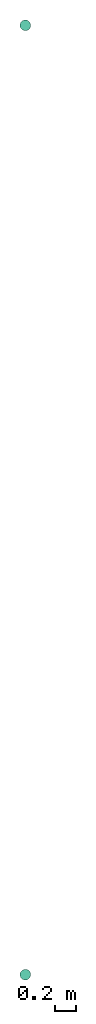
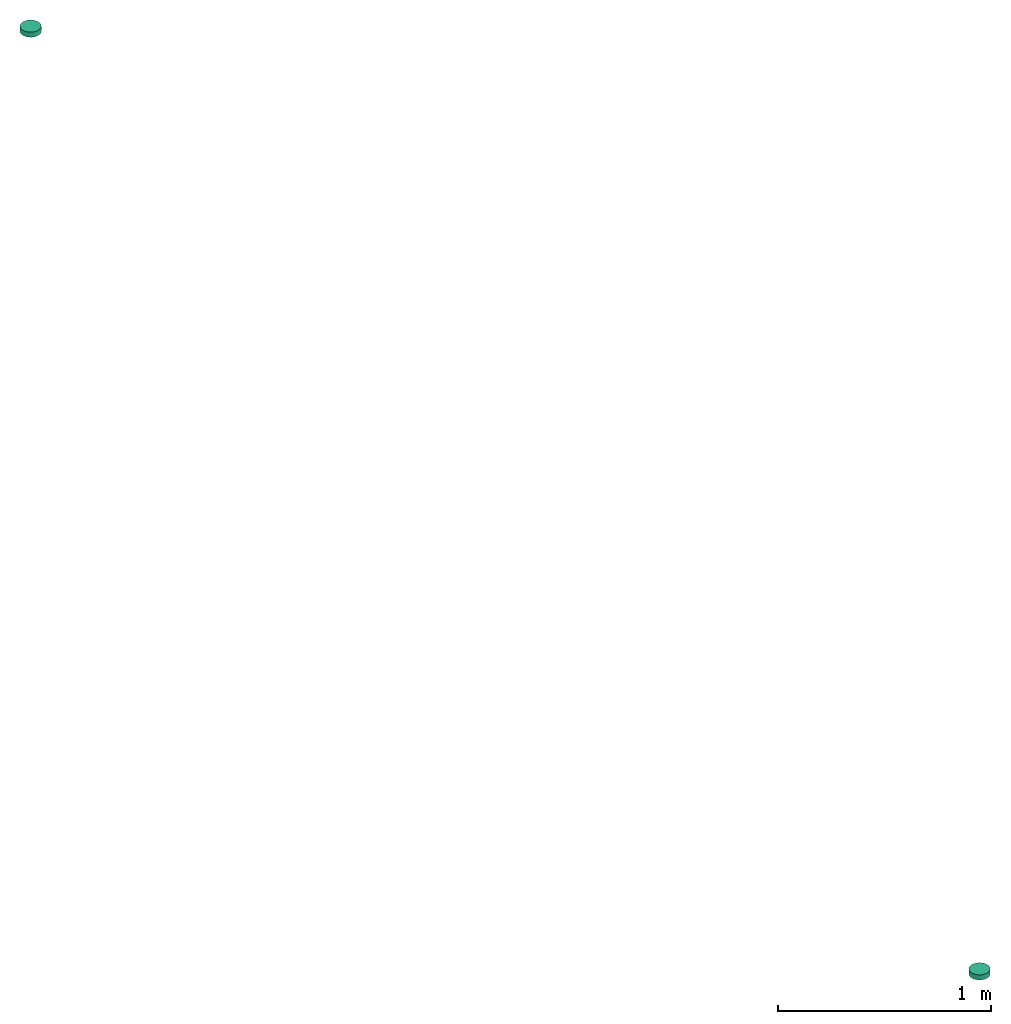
# One storey: 2 distribution control elements.
"""IFC2X3 building model written with IfcOpenShell, lengths in millimetres."""

from ifc_helpers import new_model, entity, si_unit, converted_unit, derived_unit, direction, frame, origin_with_axes, place, context, subcontext, project, spatial, open_shell, surface_model, source, transform, mapped, type_object, element, save


model = new_model("IFC2X3")

# Units and contexts
model_context = context("Model", 3, precision=0.01, world=frame((0.0, 4.29681676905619e-09, 0.0)), true_north=direction((4.01073788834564e-13, 1.0)))
plan_context = context("Plan", 3, precision=0.01, world=frame((0.0, 4.29681676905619e-09, 0.0)), true_north=direction((4.01073788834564e-13, 1.0)))
body_context = subcontext(model_context, "Body", "Model", "MODEL_VIEW")
ifc_project = project(units=[converted_unit("PLANEANGLEUNIT", "DEGREE", entity("IfcPositiveLengthMeasure", 0.0174532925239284), si_unit("PLANEANGLEUNIT", "RADIAN"), dimensions=[0, 0, 0, 0, 0, 0, 0]), si_unit("AREAUNIT", "SQUARE_METRE"), si_unit("LENGTHUNIT", "METRE", prefix="MILLI"), si_unit("MASSUNIT", "GRAM", prefix="KILO"), si_unit("POWERUNIT", "WATT"), si_unit("PRESSUREUNIT", "PASCAL", prefix="KILO"), si_unit("FORCEUNIT", "NEWTON", prefix="KILO"), si_unit("ELECTRICVOLTAGEUNIT", "VOLT"), si_unit("ELECTRICCURRENTUNIT", "AMPERE"), si_unit("THERMODYNAMICTEMPERATUREUNIT", "DEGREE_CELSIUS"), si_unit("TIMEUNIT", "SECOND"), si_unit("VOLUMEUNIT", "CUBIC_METRE"), derived_unit("LINEARVELOCITYUNIT", [(si_unit("LENGTHUNIT", "METRE"), 1), (si_unit("TIMEUNIT", "SECOND"), -1)]), derived_unit("VOLUMETRICFLOWRATEUNIT", [(si_unit("VOLUMEUNIT", "CUBIC_METRE"), 1), (si_unit("TIMEUNIT", "SECOND"), -1)]), derived_unit("THERMALTRANSMITTANCEUNIT", [(si_unit("POWERUNIT", "WATT"), 1), (si_unit("THERMODYNAMICTEMPERATUREUNIT", "KELVIN"), -1), (si_unit("AREAUNIT", "SQUARE_METRE"), -1)]), derived_unit("SOUNDPRESSUREUNIT", [(si_unit("PRESSUREUNIT", "PASCAL"), 1)])], contexts=[model_context, plan_context])

# Site, building, storey
site_placement = place(None, frame((0.0, -4.29681676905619e-09, 0.0), z_axis=(0.0, 0.0, 1.0), x_axis=(1.0, 0.0, 0.0)))
site = spatial("IfcSite", under=ifc_project, at=site_placement, Name="ENGM", CompositionType="ELEMENT")
building_placement = place(site_placement, frame((0.0, 4.29681676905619e-09, 0.0), z_axis=(0.0, 0.0, 1.0), x_axis=(1.0, 0.0, 0.0)))
building = spatial("IfcBuilding", under=site, at=building_placement, Name="TS", CompositionType="ELEMENT")
storey_placement = place(building_placement, frame((0.0, 0.0, 207370.0), z_axis=(0.0, 0.0, 1.0), x_axis=(1.0, 0.0, 0.0)))
storey = spatial("IfcBuildingStorey", under=building, at=storey_placement, Name="Nivå E", CompositionType="ELEMENT", Elevation=207370.0)

# Distribution control elements
alarm_type = type_object("IfcAlarmType", Name="Standard", PredefinedType="NOTDEFINED")
shared_shape = source(origin_with_axes(), body_context, "Body", "SurfaceModel", [
    surface_model("IfcShellBasedSurfaceModel", [(-25.0, 43.30127, -28.9), (-35.35534, 35.35534, -28.9), (-18.0, 31.17691, -28.9), (-25.45584, 25.45584, -28.9), (-9.31749, 34.77333, -28.9), (-12.94095, 48.29629, -28.9), (0.0, 36.0, -28.9), (0.0, 50.0, -28.9), (-34.77333, 9.31749, -28.9), (-43.30127, 25.0, -28.9), (-48.29629, 12.94095, -28.9), (-36.0, 0.0, -28.9), (-50.0, 0.0, -28.9), (-31.17691, 18.0, -28.9), (9.31749, 34.77333, -28.9), (12.94095, 48.29629, -28.9), (18.0, 31.17691, -28.9), (35.35534, 35.35534, -28.9), (25.0, 43.30127, -28.9), (25.45584, 25.45584, -28.9), (31.17691, 18.0, -28.9), (34.77333, 9.31749, -28.9), (43.30127, 25.0, -28.9), (48.29629, 12.94095, -28.9), (36.0, 0.0, -28.9), (50.0, 0.0, -28.9), (-34.77333, -9.31749, -28.9), (-48.29629, -12.94095, -28.9), (-31.17691, -18.0, -28.9), (-43.30127, -25.0, -28.9), (-25.45584, -25.45584, -28.9), (-35.35534, -35.35534, -28.9), (-18.0, -31.17691, -28.9), (-25.0, -43.30127, -28.9), (-9.31749, -34.77333, -28.9), (-12.94095, -48.29629, -28.9), (0.0, -36.0, -28.9), (0.0, -50.0, -28.9), (43.30127, -25.0, -28.9), (31.17691, -18.0, -28.9), (35.35534, -35.35534, -28.9), (34.77333, -9.31749, -28.9), (48.29629, -12.94095, -28.9), (25.45584, -25.45584, -28.9), (9.31749, -34.77333, -28.9), (12.94095, -48.29629, -28.9), (18.0, -31.17691, -28.9), (25.0, -43.30127, -28.9), (-25.0, -43.30127, -29.1), (-35.35534, -35.35534, -29.1), (-18.0, -31.17691, -29.1), (-25.45584, -25.45584, -29.1), (-9.31749, -34.77333, -29.1), (-12.94095, -48.29629, -29.1), (0.0, -36.0, -29.1), (0.0, -50.0, -29.1), (-34.77333, -9.31749, -29.1), (-43.30127, -25.0, -29.1), (-48.29629, -12.94095, -29.1), (-36.0, 0.0, -29.1), (-50.0, 0.0, -29.1), (-31.17691, -18.0, -29.1), (9.31749, -34.77333, -29.1), (12.94095, -48.29629, -29.1), (18.0, -31.17691, -29.1), (35.35534, -35.35534, -29.1), (25.0, -43.30127, -29.1), (25.45584, -25.45584, -29.1), (31.17691, -18.0, -29.1), (34.77333, -9.31749, -29.1), (43.30127, -25.0, -29.1), (48.29629, -12.94095, -29.1), (36.0, 0.0, -29.1), (50.0, 0.0, -29.1), (-34.77333, 9.31749, -29.1), (-48.29629, 12.94095, -29.1), (-31.17691, 18.0, -29.1), (-43.30127, 25.0, -29.1), (-25.45584, 25.45584, -29.1), (-35.35534, 35.35534, -29.1), (-18.0, 31.17691, -29.1), (-25.0, 43.30127, -29.1), (-9.31749, 34.77333, -29.1), (-12.94095, 48.29629, -29.1), (0.0, 36.0, -29.1), (0.0, 50.0, -29.1), (43.30127, 25.0, -29.1), (31.17691, 18.0, -29.1), (35.35534, 35.35534, -29.1), (34.77333, 9.31749, -29.1), (48.29629, 12.94095, -29.1), (25.45584, 25.45584, -29.1), (9.31749, 34.77333, -29.1), (12.94095, 48.29629, -29.1), (18.0, 31.17691, -29.1), (25.0, 43.30127, -29.1), (6.47048, -24.14815, -44.9), (12.5, -21.65064, -44.9), (17.67767, -17.67767, -44.9), (24.14815, -6.47048, -44.9), (-24.14815, -6.47048, -44.9), (21.65064, -12.5, -44.9), (-21.65064, 12.5, -44.9), (0.0, -25.0, -44.9), (-12.5, -21.65064, -44.9), (-6.47048, -24.14815, -44.9), (-17.67767, -17.67767, -44.9), (-21.65064, -12.5, -44.9), (25.0, 0.0, -44.9), (24.14815, 6.47048, -44.9), (21.65064, 12.5, -44.9), (17.67767, 17.67767, -44.9), (12.5, 21.65064, -44.9), (6.47048, 24.14815, -44.9), (0.0, 25.0, -44.9), (-25.0, 0.0, -44.9), (-24.14815, 6.47048, -44.9), (-12.5, 21.65064, -44.9), (-17.67767, 17.67767, -44.9), (-6.47048, 24.14815, -44.9), (0.0, 25.0, -45.1), (6.47048, 24.14815, -45.1), (12.5, 21.65064, -45.1), (-21.65064, 12.5, -45.1), (17.67767, 17.67767, -45.1), (21.65064, 12.5, -45.1), (24.14815, 6.47048, -45.1), (-12.5, 21.65064, -45.1), (-17.67767, 17.67767, -45.1), (-6.47048, 24.14815, -45.1), (-25.0, 0.0, -45.1), (-24.14815, 6.47048, -45.1), (-24.14815, -6.47048, -45.1), (24.14815, -6.47048, -45.1), (6.47048, -24.14815, -45.1), (21.65064, -12.5, -45.1), (17.67767, -17.67767, -45.1), (12.5, -21.65064, -45.1), (-12.5, -21.65064, -45.1), (-17.67767, -17.67767, -45.1), (-21.65064, -12.5, -45.1), (0.0, -25.0, -45.1), (-6.47048, -24.14815, -45.1), (25.0, 0.0, -45.1), (-1.46739, 34.60682, -29.0), (0.0, 34.8, -29.0), (0.0, 35.0, -29.0), (-34.60682, 1.46739, -29.0), (-35.0, 0.0, -29.0), (-34.8, 0.0, -29.0), (-17.5, 30.31089, -29.0), (-18.5742, 29.23669, -29.0), (-17.4, 30.13768, -29.0), (-24.60732, -24.60732, -29.0), (-18.5742, -29.23669, -29.0), (-29.23669, -18.5742, -29.0), (34.8, 0.0, -29.0), (34.60682, -1.46739, -29.0), (35.0, 0.0, -29.0), (17.4, 30.13768, -29.0), (17.5, 30.31089, -29.0), (16.03261, 30.70407, -29.0), (30.13768, 17.4, -29.0), (30.31089, 17.5, -29.0), (29.23669, 18.5742, -29.0), (34.60682, 1.46739, -29.0), (33.61422, -9.0069, -29.0), (30.70407, -16.03261, -29.0), (-33.61422, -9.0069, -29.0), (-30.70407, -16.03261, -29.0), (-34.60682, -1.46739, -29.0), (-30.13768, -17.4, -29.0), (-30.31089, -17.5, -29.0), (-17.5, -30.31089, -29.0), (-17.4, -30.13768, -29.0), (-1.46739, -34.60682, -29.0), (0.0, -35.0, -29.0), (0.0, -34.8, -29.0), (-16.03261, -30.70407, -29.0), (-9.0069, -33.61422, -29.0), (1.46739, -34.60682, -29.0), (30.13768, -17.4, -29.0), (29.23669, -18.5742, -29.0), (30.31089, -17.5, -29.0), (24.60732, -24.60732, -29.0), (18.5742, -29.23669, -29.0), (9.0069, -33.61422, -29.0), (16.03261, -30.70407, -29.0), (-30.13768, 17.4, -29.0), (-30.31089, 17.5, -29.0), (-30.70407, 16.03261, -29.0), (17.4, -30.13768, -29.0), (17.5, -30.31089, -29.0), (-33.61422, 9.0069, -29.0), (-29.23669, 18.5742, -29.0), (-24.60732, 24.60732, -29.0), (-16.03261, 30.70407, -29.0), (-9.0069, 33.61422, -29.0), (1.46739, 34.60682, -29.0), (9.0069, 33.61422, -29.0), (18.5742, 29.23669, -29.0), (24.60732, 24.60732, -29.0), (30.70407, 16.03261, -29.0), (33.61422, 9.0069, -29.0), (23.00389, 18.55381, -38.25), (14.9, 25.80756, -38.25), (21.07178, 21.07178, -38.25), (29.66376, 1.03484, -38.25), (30.0, 0.0, -38.25), (29.8, 0.0, -38.25), (24.27051, 17.63356, -38.25), (24.68215, 16.36666, -38.25), (10.52665, 27.61906, -38.25), (28.78459, 7.71281, -38.25), (-10.52665, 27.61906, -38.25), (-23.00389, 18.55381, -38.25), (-14.9, 25.80756, -38.25), (8.32335, 28.5317, -38.25), (0.0, 29.8, -38.25), (7.71281, 28.78459, -38.25), (-8.32335, 28.5317, -38.25), (-24.68215, 16.36666, -38.25), (-28.78459, 7.71281, -38.25), (-25.80756, 14.9, -38.25), (-9.27051, 28.5317, -38.25), (-29.66376, 1.03484, -38.25), (-29.8, 0.0, -38.25), (-30.0, 0.0, -38.25), (-28.78459, -7.71281, -38.25), (-24.68215, -16.36666, -38.25), (-25.80756, -14.9, -38.25), (29.66376, -1.03484, -38.25), (-7.71281, 28.78459, -38.25), (25.80756, 14.9, -38.25), (14.9, -25.80756, -38.25), (10.52665, -27.61906, -38.25), (23.00389, -18.55381, -38.25), (28.78459, -7.71281, -38.25), (24.68215, -16.36666, -38.25), (0.0, -29.8, -38.25), (-7.71281, -28.78459, -38.25), (-8.32335, -28.5317, -38.25), (8.32335, -28.5317, -38.25), (9.27051, 28.5317, -38.25), (-29.66376, -1.03484, -38.25), (21.07178, -21.07178, -38.25), (-23.00389, -18.55381, -38.25), (-24.27051, -17.63356, -38.25), (-9.27051, -28.5317, -38.25), (-10.52665, -27.61906, -38.25), (-21.07178, -21.07178, -38.25), (-14.9, -25.80756, -38.25), (9.27051, -28.5317, -38.25), (7.71281, -28.78459, -38.25), (24.27051, -17.63356, -38.25), (25.80756, -14.9, -38.25), (-21.07178, 21.07178, -38.25), (-24.27051, 17.63356, -38.25), (33.28589, -6.39713, -29.0), (27.13526, -8.81678, -38.25), (-16.77051, -23.08263, -38.25), (-23.90544, -23.90544, -29.0), (-27.13526, -8.81678, -38.25), (-33.28589, -6.39713, -29.0), (16.77051, -23.08263, -38.25), (8.75, -32.65544, -29.0), (0.0, -28.5317, -38.25), (23.90544, -23.90544, -29.0), (-8.75, -32.65544, -29.0), (-33.28589, 6.39713, -29.0), (-27.13526, 8.81678, -38.25), (16.77051, 23.08263, -38.25), (23.90544, 23.90544, -29.0), (27.13526, 8.81678, -38.25), (33.28589, 6.39713, -29.0), (-16.77051, 23.08263, -38.25), (-8.75, 32.65544, -29.0), (0.0, 28.5317, -38.25), (-23.90544, 23.90544, -29.0), (8.75, 32.65544, -29.0), (12.4, 21.47743, -45.0), (17.53625, 17.53625, -45.0), (19.07577, 15.5299, -45.0), (20.22543, 14.69463, -45.0), (20.59905, 13.54472, -45.0), (24.66376, 1.03484, -45.0), (25.0, 0.0, -45.0), (24.8, 0.0, -45.0), (8.88673, 22.93267, -45.0), (23.95496, 6.41871, -45.0), (-8.88673, 22.93267, -45.0), (-19.07577, 15.5299, -45.0), (-12.4, 21.47743, -45.0), (6.84976, 23.77641, -45.0), (0.0, 24.8, -45.0), (6.41871, 23.95496, -45.0), (-7.72542, 23.77641, -45.0), (-6.84976, 23.77641, -45.0), (-21.47743, 12.4, -45.0), (-20.59905, 13.54472, -45.0), (-23.95496, 6.41871, -45.0), (-25.0, 0.0, -45.0), (-24.66376, 1.03484, -45.0), (-24.8, 0.0, -45.0), (-23.95496, -6.41871, -45.0), (-20.59905, -13.54472, -45.0), (-21.47743, -12.4, -45.0), (-6.41871, 23.95496, -45.0), (24.66376, -1.03484, -45.0), (21.47743, 12.4, -45.0), (12.4, -21.47743, -45.0), (8.88673, -22.93267, -45.0), (19.07577, -15.5299, -45.0), (23.95496, -6.41871, -45.0), (20.59905, -13.54472, -45.0), (0.0, -24.8, -45.0), (-6.41871, -23.95496, -45.0), (-6.84976, -23.77641, -45.0), (7.72542, -23.77641, -45.0), (6.84976, -23.77641, -45.0), (7.72542, 23.77641, -45.0), (-24.66376, -1.03484, -45.0), (17.53625, -17.53625, -45.0), (-20.22543, -14.69463, -45.0), (-19.07577, -15.5299, -45.0), (-8.88673, -22.93267, -45.0), (-7.72542, -23.77641, -45.0), (-17.53625, -17.53625, -45.0), (-12.4, -21.47743, -45.0), (6.41871, -23.95496, -45.0), (20.22543, -14.69463, -45.0), (21.47743, -12.4, -45.0), (-17.53625, 17.53625, -45.0), (-20.22543, 14.69463, -45.0), (-22.61271, -7.34732, -45.0), (-13.97542, -19.23552, -45.0), (0.0, -23.77641, -45.0), (21.83768, -9.73262, -45.0), (13.97542, -19.23552, -45.0), (23.41884, -4.86631, -45.0), (22.61271, 7.34732, -45.0), (13.97542, 19.23552, -45.0), (0.0, 23.77641, -45.0), (-21.83768, 9.73262, -45.0), (-13.97542, 19.23552, -45.0), (-23.41884, 4.86631, -45.0), (12.94095, -48.29629, 0.0), (25.0, -43.30127, 0.0), (35.35534, -35.35534, 0.0), (48.29629, -12.94095, 0.0), (-48.29629, -12.94095, 0.0), (43.30127, -25.0, 0.0), (-43.30127, 25.0, 0.0), (0.0, -50.0, 0.0), (-25.0, -43.30127, 0.0), (-12.94095, -48.29629, 0.0), (-35.35534, -35.35534, 0.0), (-43.30127, -25.0, 0.0), (50.0, 0.0, 0.0), (48.29629, 12.94095, 0.0), (43.30127, 25.0, 0.0), (35.35534, 35.35534, 0.0), (25.0, 43.30127, 0.0), (12.94095, 48.29629, 0.0), (0.0, 50.0, 0.0), (-50.0, 0.0, 0.0), (-48.29629, 12.94095, 0.0), (-25.0, 43.30127, 0.0), (-35.35534, 35.35534, 0.0), (-12.94095, 48.29629, 0.0), (0.0, 50.0, -29.0), (12.94095, 48.29629, -29.0), (25.0, 43.30127, -29.0), (-43.30127, 25.0, -29.0), (35.35534, 35.35534, -29.0), (43.30127, 25.0, -29.0), (48.29629, 12.94095, -29.0), (-25.0, 43.30127, -29.0), (-35.35534, 35.35534, -29.0), (-12.94095, 48.29629, -29.0), (-50.0, 0.0, -29.0), (-48.29629, 12.94095, -29.0), (-48.29629, -12.94095, -29.0), (48.29629, -12.94095, -29.0), (12.94095, -48.29629, -29.0), (43.30127, -25.0, -29.0), (35.35534, -35.35534, -29.0), (25.0, -43.30127, -29.0), (-25.0, -43.30127, -29.0), (-35.35534, -35.35534, -29.0), (-43.30127, -25.0, -29.0), (0.0, -50.0, -29.0), (-12.94095, -48.29629, -29.0), (50.0, 0.0, -29.0)], [open_shell([[[0, 1, 2]], [[2, 1, 3]], [[0, 2, 4]], [[5, 4, 6]], [[4, 5, 0]], [[5, 6, 7]], [[8, 9, 10]], [[11, 10, 12]], [[8, 10, 11]], [[13, 3, 9]], [[8, 13, 9]], [[9, 3, 1]], [[7, 14, 15]], [[14, 7, 6]], [[15, 14, 16]], [[17, 18, 19]], [[16, 18, 15]], [[19, 18, 16]], [[20, 21, 22]], [[20, 22, 17]], [[21, 23, 22]], [[23, 21, 24]], [[23, 24, 25]], [[20, 17, 19]], [[26, 12, 27]], [[28, 27, 29]], [[28, 26, 27]], [[30, 28, 29]], [[29, 31, 30]], [[32, 31, 33]], [[31, 32, 30]], [[32, 33, 34]], [[34, 35, 36]], [[35, 34, 33]], [[36, 35, 37]], [[38, 39, 40]], [[41, 39, 42]], [[41, 42, 25]], [[42, 39, 38]], [[39, 43, 40]], [[25, 24, 41]], [[44, 37, 45]], [[37, 44, 36]], [[44, 45, 46]], [[47, 40, 43]], [[47, 46, 45]], [[47, 43, 46]], [[26, 11, 12]], [[48, 49, 50]], [[50, 49, 51]], [[48, 50, 52]], [[53, 52, 54]], [[52, 53, 48]], [[53, 54, 55]], [[56, 57, 58]], [[59, 58, 60]], [[56, 58, 59]], [[61, 51, 57]], [[56, 61, 57]], [[57, 51, 49]], [[55, 62, 63]], [[62, 55, 54]], [[63, 62, 64]], [[65, 66, 67]], [[64, 66, 63]], [[67, 66, 64]], [[68, 69, 70]], [[68, 70, 65]], [[69, 71, 70]], [[71, 69, 72]], [[71, 72, 73]], [[68, 65, 67]], [[74, 60, 75]], [[76, 75, 77]], [[76, 74, 75]], [[78, 76, 77]], [[77, 79, 78]], [[80, 79, 81]], [[79, 80, 78]], [[80, 81, 82]], [[82, 83, 84]], [[83, 82, 81]], [[84, 83, 85]], [[86, 87, 88]], [[89, 87, 90]], [[89, 90, 73]], [[90, 87, 86]], [[87, 91, 88]], [[73, 72, 89]], [[92, 85, 93]], [[85, 92, 84]], [[92, 93, 94]], [[95, 88, 91]], [[95, 94, 93]], [[95, 91, 94]], [[74, 59, 60]], [[11, 59, 8]], [[8, 74, 13]], [[2, 3, 78]], [[76, 3, 13]], [[4, 2, 80]], [[74, 76, 13]], [[8, 59, 74]], [[84, 6, 82]], [[4, 80, 82]], [[80, 2, 78]], [[3, 76, 78]], [[4, 82, 6]], [[14, 92, 16]], [[16, 94, 19]], [[21, 20, 87]], [[91, 20, 19]], [[24, 21, 89]], [[92, 94, 16]], [[14, 84, 92]], [[21, 87, 89]], [[87, 20, 91]], [[19, 94, 91]], [[24, 89, 72]], [[6, 84, 14]], [[24, 72, 41]], [[41, 69, 39]], [[46, 43, 67]], [[68, 43, 39]], [[44, 46, 64]], [[69, 68, 39]], [[41, 72, 69]], [[54, 36, 62]], [[44, 64, 62]], [[64, 46, 67]], [[43, 68, 67]], [[44, 62, 36]], [[34, 52, 32]], [[32, 50, 30]], [[26, 28, 61]], [[51, 28, 30]], [[11, 26, 56]], [[52, 50, 32]], [[34, 54, 52]], [[26, 61, 56]], [[61, 28, 51]], [[30, 50, 51]], [[11, 56, 59]], [[36, 54, 34]], [[58, 27, 60]], [[57, 29, 58]], [[33, 49, 48]], [[57, 49, 31]], [[35, 48, 53]], [[58, 29, 27]], [[27, 12, 60]], [[35, 33, 48]], [[31, 49, 33]], [[31, 29, 57]], [[37, 35, 53]], [[53, 55, 37]], [[63, 45, 55]], [[66, 47, 63]], [[38, 65, 70]], [[66, 65, 40]], [[42, 70, 71]], [[66, 40, 47]], [[47, 45, 63]], [[25, 42, 71]], [[38, 70, 42]], [[38, 40, 65]], [[73, 25, 71]], [[55, 45, 37]], [[90, 23, 73]], [[86, 22, 90]], [[18, 88, 95]], [[86, 88, 17]], [[15, 95, 93]], [[90, 22, 23]], [[23, 25, 73]], [[15, 18, 95]], [[17, 88, 18]], [[17, 22, 86]], [[7, 15, 93]], [[93, 85, 7]], [[83, 5, 85]], [[81, 0, 83]], [[9, 79, 77]], [[81, 79, 1]], [[10, 77, 75]], [[81, 1, 0]], [[0, 5, 83]], [[12, 10, 75]], [[9, 77, 10]], [[9, 1, 79]], [[60, 12, 75]], [[85, 5, 7]], [[96, 97, 98]], [[96, 98, 99]], [[96, 99, 100]], [[99, 98, 101]], [[102, 100, 99]], [[103, 104, 105]], [[103, 96, 104]], [[106, 100, 107]], [[106, 104, 96]], [[100, 106, 96]], [[99, 108, 102]], [[109, 110, 111]], [[109, 111, 112]], [[112, 113, 114]], [[109, 112, 102]], [[102, 112, 114]], [[115, 102, 116]], [[100, 102, 115]], [[102, 117, 118]], [[117, 102, 119]], [[114, 119, 102]], [[102, 108, 109]], [[120, 121, 122]], [[123, 120, 122]], [[124, 125, 126]], [[124, 126, 122]], [[123, 122, 126]], [[127, 123, 128]], [[123, 127, 129]], [[123, 130, 131]], [[123, 129, 120]], [[123, 132, 130]], [[123, 126, 133]], [[132, 123, 133]], [[134, 133, 135]], [[136, 137, 134]], [[136, 134, 135]], [[138, 133, 134]], [[132, 139, 140]], [[132, 133, 139]], [[138, 141, 142]], [[139, 133, 138]], [[134, 141, 138]], [[133, 126, 143]], [[132, 100, 130]], [[140, 107, 132]], [[104, 139, 138]], [[140, 139, 106]], [[105, 138, 142]], [[132, 107, 100]], [[100, 115, 130]], [[105, 104, 138]], [[106, 139, 104]], [[106, 107, 140]], [[103, 105, 142]], [[142, 141, 103]], [[134, 96, 141]], [[137, 97, 134]], [[101, 136, 135]], [[137, 136, 98]], [[99, 135, 133]], [[137, 98, 97]], [[97, 96, 134]], [[108, 99, 133]], [[101, 135, 99]], [[101, 98, 136]], [[143, 108, 133]], [[141, 96, 103]], [[126, 109, 143]], [[125, 110, 126]], [[112, 124, 122]], [[125, 124, 111]], [[113, 122, 121]], [[126, 110, 109]], [[109, 108, 143]], [[113, 112, 122]], [[111, 124, 112]], [[111, 110, 125]], [[114, 113, 121]], [[121, 120, 114]], [[129, 119, 120]], [[127, 117, 129]], [[102, 128, 123]], [[127, 128, 118]], [[116, 123, 131]], [[127, 118, 117]], [[117, 119, 129]], [[115, 116, 131]], [[102, 123, 116]], [[102, 118, 128]], [[130, 115, 131]], [[120, 119, 114]], [[144, 145, 146]], [[147, 148, 149]], [[150, 151, 152]], [[153, 154, 155]], [[156, 157, 158]], [[159, 160, 161]], [[162, 163, 164]], [[156, 158, 165]], [[166, 157, 167]], [[168, 169, 170]], [[170, 149, 148]], [[171, 169, 172]], [[173, 174, 154]], [[175, 176, 177]], [[174, 173, 178]], [[155, 171, 172]], [[179, 175, 178]], [[180, 177, 176]], [[181, 182, 183]], [[181, 183, 167]], [[184, 182, 185]], [[186, 187, 180]], [[188, 189, 190]], [[191, 192, 185]], [[191, 187, 192]], [[193, 147, 190]], [[188, 194, 189]], [[195, 194, 151]], [[152, 196, 150]], [[197, 196, 144]], [[145, 198, 146]], [[199, 198, 161]], [[159, 200, 160]], [[201, 200, 164]], [[162, 202, 163]], [[203, 202, 165]], [[204, 205, 206]], [[207, 208, 209]], [[204, 210, 211]], [[205, 204, 212]], [[213, 207, 211]], [[214, 215, 216]], [[217, 218, 219]], [[218, 217, 220]], [[221, 222, 223]], [[220, 214, 224]], [[225, 226, 227]], [[228, 229, 230]], [[209, 208, 231]], [[218, 220, 232]], [[213, 211, 233]], [[234, 235, 236]], [[237, 238, 231]], [[239, 240, 241]], [[241, 242, 239]], [[243, 212, 217]], [[227, 226, 244]], [[234, 236, 245]], [[229, 246, 247]], [[241, 248, 249]], [[250, 246, 251]], [[228, 244, 229]], [[235, 252, 242]], [[239, 242, 253]], [[236, 238, 254]], [[238, 237, 255]], [[251, 246, 249]], [[216, 215, 256]], [[215, 221, 257]], [[222, 221, 225]], [[208, 158, 258]], [[183, 259, 258]], [[260, 261, 247]], [[172, 262, 247]], [[263, 227, 262]], [[192, 252, 264]], [[260, 248, 173]], [[261, 260, 173]], [[252, 265, 266]], [[227, 263, 148]], [[172, 263, 262]], [[258, 259, 208]], [[254, 267, 264]], [[268, 173, 248]], [[252, 192, 265]], [[192, 264, 267]], [[267, 254, 183]], [[259, 183, 254]], [[268, 266, 176]], [[265, 176, 266]], [[248, 266, 268]], [[172, 247, 261]], [[227, 148, 269]], [[189, 270, 269]], [[271, 272, 210]], [[163, 273, 210]], [[274, 208, 273]], [[150, 224, 275]], [[271, 243, 160]], [[272, 271, 160]], [[224, 276, 277]], [[208, 274, 158]], [[163, 274, 273]], [[269, 270, 227]], [[257, 278, 275]], [[279, 160, 243]], [[224, 150, 276]], [[150, 275, 278]], [[278, 257, 189]], [[270, 189, 257]], [[279, 277, 146]], [[276, 146, 277]], [[243, 277, 279]], [[163, 210, 272]], [[171, 230, 228]], [[168, 228, 226]], [[179, 240, 251]], [[174, 251, 250]], [[153, 250, 230]], [[168, 171, 228]], [[226, 149, 168]], [[251, 174, 179]], [[174, 250, 153]], [[230, 171, 153]], [[240, 179, 177]], [[177, 239, 240]], [[184, 245, 234]], [[191, 234, 253]], [[156, 209, 237]], [[166, 237, 255]], [[181, 255, 245]], [[239, 186, 253]], [[186, 191, 253]], [[177, 186, 239]], [[184, 181, 245]], [[191, 184, 234]], [[181, 166, 255]], [[166, 156, 237]], [[162, 233, 213]], [[203, 213, 209]], [[199, 219, 205]], [[159, 205, 206]], [[201, 206, 233]], [[203, 162, 213]], [[209, 156, 203]], [[205, 159, 199]], [[159, 206, 201]], [[233, 162, 201]], [[219, 199, 145]], [[145, 218, 219]], [[195, 256, 216]], [[152, 216, 232]], [[149, 226, 222]], [[193, 222, 223]], [[188, 223, 256]], [[218, 197, 232]], [[197, 152, 232]], [[145, 197, 218]], [[195, 188, 256]], [[152, 195, 216]], [[188, 193, 223]], [[193, 149, 222]], [[215, 216, 256]], [[221, 222, 225]], [[225, 227, 226]], [[257, 221, 215]], [[216, 215, 214]], [[212, 204, 205]], [[220, 218, 232]], [[218, 220, 217]], [[217, 212, 243]], [[233, 211, 213]], [[208, 207, 209]], [[237, 238, 255]], [[252, 235, 242]], [[218, 217, 219]], [[227, 244, 226]], [[222, 221, 223]], [[228, 229, 244]], [[239, 253, 242]], [[246, 251, 249]], [[249, 248, 241]], [[231, 238, 237]], [[208, 209, 231]], [[251, 246, 250]], [[254, 238, 236]], [[236, 234, 245]], [[214, 220, 224]], [[242, 241, 239]], [[239, 241, 240]], [[246, 229, 247]], [[230, 229, 228]], [[234, 236, 235]], [[205, 204, 206]], [[204, 211, 210]], [[213, 211, 207]], [[280, 281, 282]], [[282, 283, 284]], [[285, 286, 287]], [[280, 282, 288]], [[289, 285, 284]], [[290, 291, 292]], [[293, 294, 295]], [[290, 296, 297]], [[294, 293, 297]], [[298, 299, 300]], [[301, 302, 303]], [[304, 305, 306]], [[294, 297, 307]], [[308, 287, 286]], [[289, 284, 309]], [[310, 311, 312]], [[313, 314, 308]], [[315, 316, 317]], [[311, 318, 319]], [[293, 320, 288]], [[301, 303, 321]], [[310, 312, 322]], [[323, 305, 324]], [[325, 317, 326]], [[327, 324, 328]], [[304, 321, 305]], [[317, 319, 315]], [[315, 319, 329]], [[312, 314, 330]], [[331, 314, 313]], [[328, 324, 325]], [[292, 291, 332]], [[291, 299, 333]], [[300, 299, 302]], [[262, 301, 334]], [[334, 323, 247]], [[248, 335, 326]], [[301, 262, 227]], [[334, 247, 262]], [[260, 323, 335]], [[266, 248, 326]], [[336, 252, 266]], [[252, 336, 318]], [[323, 260, 247]], [[248, 260, 335]], [[254, 337, 259]], [[318, 264, 252]], [[338, 254, 264]], [[339, 286, 208]], [[264, 318, 338]], [[259, 339, 208]], [[338, 330, 254]], [[266, 326, 336]], [[259, 337, 339]], [[337, 254, 330]], [[273, 286, 340]], [[340, 283, 210]], [[243, 341, 320]], [[286, 273, 208]], [[340, 210, 273]], [[271, 283, 341]], [[277, 243, 320]], [[342, 224, 277]], [[224, 342, 296]], [[283, 271, 210]], [[243, 271, 341]], [[257, 343, 270]], [[296, 275, 224]], [[344, 257, 275]], [[345, 301, 227]], [[275, 296, 344]], [[270, 345, 227]], [[344, 333, 257]], [[277, 320, 342]], [[270, 343, 345]], [[343, 257, 333]], [[230, 306, 304]], [[228, 304, 303]], [[240, 316, 328]], [[251, 328, 327]], [[250, 327, 306]], [[228, 230, 304]], [[303, 226, 228]], [[328, 251, 240]], [[251, 327, 250]], [[306, 230, 250]], [[316, 240, 239]], [[239, 315, 316]], [[245, 322, 310]], [[234, 310, 329]], [[209, 287, 313]], [[237, 313, 331]], [[255, 331, 322]], [[315, 253, 329]], [[253, 234, 329]], [[239, 253, 315]], [[255, 322, 245]], [[234, 245, 310]], [[331, 255, 237]], [[237, 209, 313]], [[233, 309, 289]], [[213, 289, 287]], [[219, 295, 280]], [[205, 280, 281]], [[206, 281, 309]], [[213, 233, 289]], [[287, 209, 213]], [[280, 205, 219]], [[205, 281, 206]], [[309, 233, 206]], [[295, 219, 218]], [[218, 294, 295]], [[256, 332, 292]], [[216, 292, 307]], [[226, 303, 300]], [[222, 300, 298]], [[223, 298, 332]], [[294, 232, 307]], [[232, 216, 307]], [[218, 232, 294]], [[223, 332, 256]], [[216, 256, 292]], [[298, 223, 222]], [[222, 226, 300]], [[346, 347, 348]], [[346, 348, 349]], [[346, 349, 350]], [[349, 348, 351]], [[352, 350, 349]], [[353, 354, 355]], [[353, 346, 354]], [[356, 350, 357]], [[356, 354, 346]], [[350, 356, 346]], [[349, 358, 352]], [[359, 360, 361]], [[359, 361, 362]], [[362, 363, 364]], [[359, 362, 352]], [[352, 362, 364]], [[365, 352, 366]], [[350, 352, 365]], [[352, 367, 368]], [[367, 352, 369]], [[364, 369, 352]], [[352, 358, 359]], [[370, 371, 372]], [[373, 370, 372]], [[374, 375, 376]], [[374, 376, 372]], [[373, 372, 376]], [[377, 373, 378]], [[373, 377, 379]], [[373, 380, 381]], [[373, 379, 370]], [[373, 382, 380]], [[373, 376, 383]], [[382, 373, 383]], [[384, 383, 385]], [[386, 387, 384]], [[386, 384, 385]], [[388, 383, 384]], [[382, 389, 390]], [[382, 383, 389]], [[388, 391, 392]], [[389, 383, 388]], [[384, 391, 388]], [[383, 376, 393]], [[382, 350, 380]], [[390, 357, 382]], [[354, 389, 388]], [[390, 389, 356]], [[355, 388, 392]], [[382, 357, 350]], [[350, 365, 380]], [[355, 354, 388]], [[356, 389, 354]], [[356, 357, 390]], [[353, 355, 392]], [[392, 391, 353]], [[384, 346, 391]], [[387, 347, 384]], [[351, 386, 385]], [[387, 386, 348]], [[349, 385, 383]], [[387, 348, 347]], [[347, 346, 384]], [[358, 349, 383]], [[351, 385, 349]], [[351, 348, 386]], [[393, 358, 383]], [[391, 346, 353]], [[376, 359, 393]], [[375, 360, 376]], [[362, 374, 372]], [[375, 374, 361]], [[363, 372, 371]], [[376, 360, 359]], [[359, 358, 393]], [[363, 362, 372]], [[361, 374, 362]], [[361, 360, 375]], [[364, 363, 371]], [[371, 370, 364]], [[369, 370, 379]], [[367, 379, 377]], [[352, 373, 381]], [[366, 381, 380]], [[379, 367, 369]], [[367, 377, 378]], [[367, 378, 368]], [[368, 378, 352]], [[352, 378, 373]], [[352, 381, 366]], [[380, 365, 366]], [[370, 369, 364]]])]),
])
for number, where, z_axis, x_axis, name in (
    (1, (722459.42392, 437099.0301, 3230.0), (0.0, 0.0, 1.0), (1.0, 0.0, 0.0), "Standard"),
    (2, (722459.42392, 445999.0301, 3230.0), (0.0, 0.0, 1.0), (1.0, 0.0, 0.0), "Standard"),
):
    element("IfcDistributionControlElement", number, at=place(storey_placement, frame(where, z_axis=z_axis, x_axis=x_axis)), inside=storey, type_object=alarm_type, Name=name, context=body_context, shape_type="MappedRepresentation", body=[
        mapped(shared_shape, transform((0.0, 0.0, 0.0), scale=1.0)),
    ])

save(model, "model.ifc")
